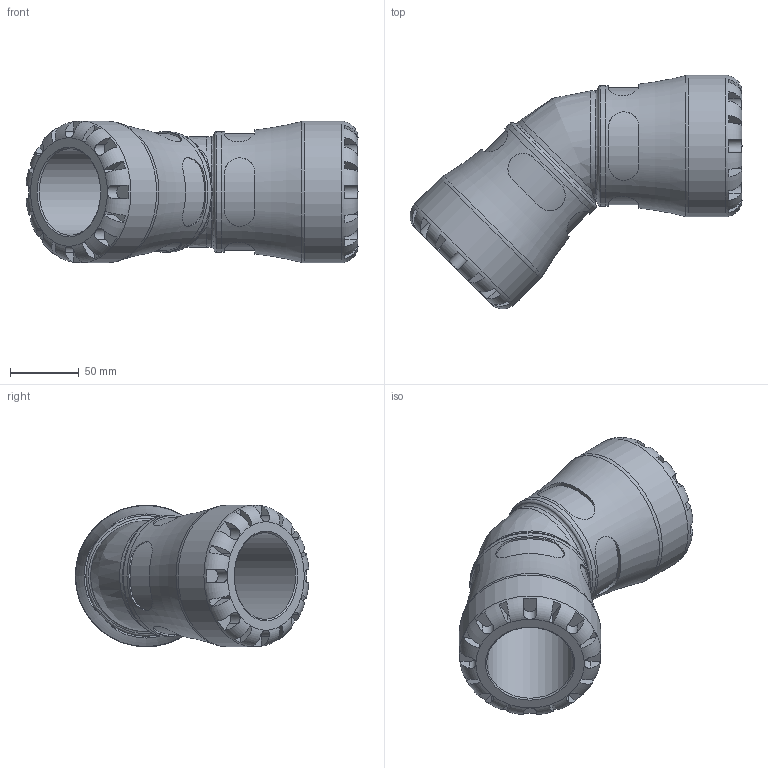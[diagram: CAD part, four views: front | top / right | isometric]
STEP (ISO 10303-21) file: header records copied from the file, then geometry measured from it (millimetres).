
FILE_DESCRIPTION(/* description */ ('PLASSON G-PLASS 45° ELBOW 63-63'),/* implementation_level */ '2;1');
FILE_NAME(/* name */ 'C:\Dropbox\KIMPROJECTS-Inventor 2019\99-16-3568-Processing\S1\150600\stp\150600063.stp',/* time_stamp */ '2023-10-17T19:37:13+03:00',/* author */ ('KIM'),/* organization */ (''),/* preprocessor_version */ 'ST-DEVELOPER v17.2',/* originating_system */ 'Autodesk Inventor 2019',/* authorisation */ '');
FILE_SCHEMA (('AUTOMOTIVE_DESIGN { 1 0 10303 214 3 1 1 }'));
Length unit declared in the file: millimetre
Products named in the file (1): 150600063
Bounding box: 241.18 x 169.68 x 103 mm (x, y, z)
Volume: 950554.8 mm3; surface area: 136430.4 mm2
Topology: 1 solids, 1 shells, 196 faces, 524 edges, 336 vertices
Faces by surface type: plane 116, cylinder 66, torus 11, cone 2, bspline 1
Full cylindrical faces by diameter (mm): 52.5 x2, 63 x2, 87.55 x2, 103 x2
Entity records: 8117 total; most frequent: CARTESIAN_POINT 3079, ORIENTED_EDGE 1044, DIRECTION 1006, EDGE_CURVE 522, AXIS2_PLACEMENT_3D 418, VERTEX_POINT 336, CIRCLE 220, EDGE_LOOP 206
